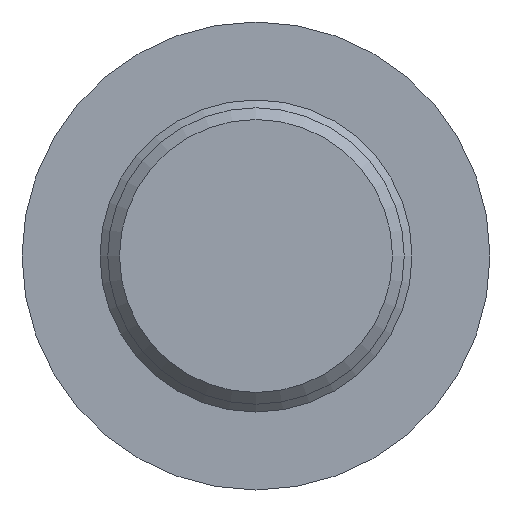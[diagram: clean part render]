
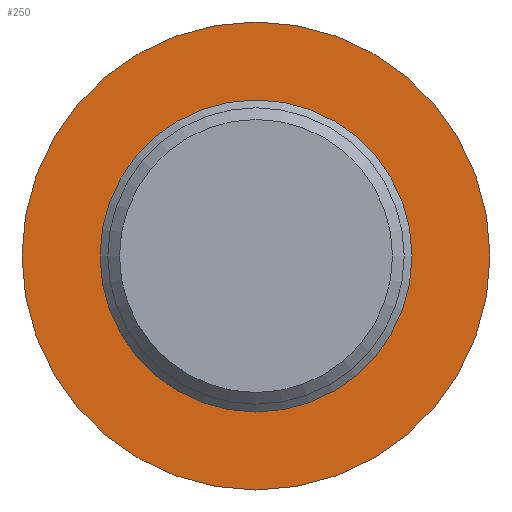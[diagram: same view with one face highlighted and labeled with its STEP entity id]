
A CAD part, front view. The second image highlights one B-rep face of the part: STEP entity #250.
In plain terms, the highlighted planar face has unit normal (0, -1, 0).
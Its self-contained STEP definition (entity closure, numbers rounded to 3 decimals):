
#17=FACE_BOUND('',#61,.T.);
#30=PLANE('',#303);
#43=FACE_OUTER_BOUND('',#60,.T.);
#60=EDGE_LOOP('',(#214,#215));
#61=EDGE_LOOP('',(#216,#217));
#100=CIRCLE('',#301,4.);
#101=CIRCLE('',#302,4.);
#102=CIRCLE('',#304,6.);
#103=CIRCLE('',#305,6.);
#126=VERTEX_POINT('',#456);
#127=VERTEX_POINT('',#457);
#128=VERTEX_POINT('',#462);
#129=VERTEX_POINT('',#463);
#157=EDGE_CURVE('',#126,#127,#100,.T.);
#158=EDGE_CURVE('',#127,#126,#101,.T.);
#160=EDGE_CURVE('',#128,#129,#102,.T.);
#161=EDGE_CURVE('',#129,#128,#103,.T.);
#214=ORIENTED_EDGE('',*,*,#160,.F.);
#215=ORIENTED_EDGE('',*,*,#161,.F.);
#216=ORIENTED_EDGE('',*,*,#157,.T.);
#217=ORIENTED_EDGE('',*,*,#158,.T.);
#250=ADVANCED_FACE('',(#43,#17),#30,.T.);
#301=AXIS2_PLACEMENT_3D('',#458,#375,#376);
#302=AXIS2_PLACEMENT_3D('',#459,#377,#378);
#303=AXIS2_PLACEMENT_3D('',#461,#380,#381);
#304=AXIS2_PLACEMENT_3D('',#464,#382,#383);
#305=AXIS2_PLACEMENT_3D('',#465,#384,#385);
#375=DIRECTION('center_axis',(0.,1.,0.));
#376=DIRECTION('ref_axis',(1.,0.,0.));
#377=DIRECTION('center_axis',(0.,1.,0.));
#378=DIRECTION('ref_axis',(1.,0.,0.));
#380=DIRECTION('center_axis',(0.,-1.,0.));
#381=DIRECTION('ref_axis',(0.,0.,-1.));
#382=DIRECTION('center_axis',(0.,1.,0.));
#383=DIRECTION('ref_axis',(1.,0.,0.));
#384=DIRECTION('center_axis',(0.,1.,0.));
#385=DIRECTION('ref_axis',(1.,0.,0.));
#456=CARTESIAN_POINT('',(0.,-490.,4.));
#457=CARTESIAN_POINT('',(0.,-490.,-4.));
#458=CARTESIAN_POINT('Origin',(0.,-490.,0.));
#459=CARTESIAN_POINT('Origin',(0.,-490.,0.));
#461=CARTESIAN_POINT('Origin',(0.,-490.,6.));
#462=CARTESIAN_POINT('',(0.,-490.,6.));
#463=CARTESIAN_POINT('',(0.,-490.,-6.));
#464=CARTESIAN_POINT('Origin',(0.,-490.,0.));
#465=CARTESIAN_POINT('Origin',(0.,-490.,0.));
